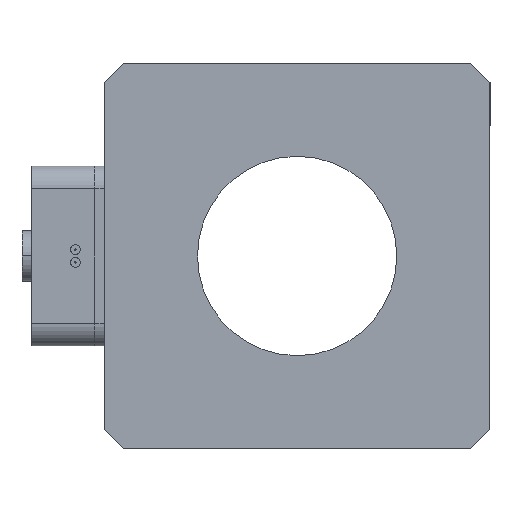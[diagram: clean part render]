
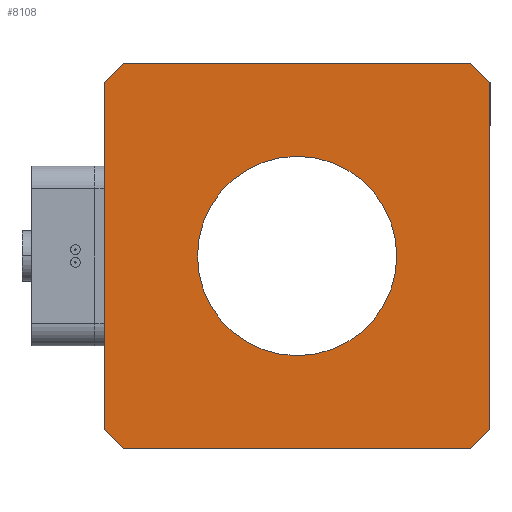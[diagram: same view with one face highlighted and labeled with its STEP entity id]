
A CAD part, left-side view. The second image highlights one B-rep face of the part: STEP entity #8108.
In plain terms, the highlighted planar face has unit normal (-1, 0, 0).
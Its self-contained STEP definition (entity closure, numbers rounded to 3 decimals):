
#316 = LINE ( 'NONE', #6033, #5275 ) ;
#317 = PLANE ( 'NONE',  #9866 ) ;
#363 = DIRECTION ( 'NONE',  ( 0., 0., -1. ) ) ;
#390 = LINE ( 'NONE', #6904, #5668 ) ;
#471 = EDGE_CURVE ( 'NONE', #2806, #6105, #3713, .T. ) ;
#690 = DIRECTION ( 'NONE',  ( 0., 0., -1. ) ) ;
#746 = ORIENTED_EDGE ( 'NONE', *, *, #471, .T. ) ;
#960 = DIRECTION ( 'NONE',  ( 0., 1., 0. ) ) ;
#963 = FACE_OUTER_BOUND ( 'NONE', #3887, .T. ) ;
#986 = EDGE_CURVE ( 'NONE', #1195, #9212, #4667, .T. ) ;
#1195 = VERTEX_POINT ( 'NONE', #9290 ) ;
#1214 = CARTESIAN_POINT ( 'NONE',  ( -36., -27., -30. ) ) ;
#1322 = CARTESIAN_POINT ( 'NONE',  ( -36., 0., 0. ) ) ;
#1701 = CARTESIAN_POINT ( 'NONE',  ( -36., 30., 30. ) ) ;
#1963 = VECTOR ( 'NONE', #690, 1000. ) ;
#2288 = DIRECTION ( 'NONE',  ( 0., 0., -1. ) ) ;
#2595 = AXIS2_PLACEMENT_3D ( 'NONE', #2926, #9838, #3922 ) ;
#2629 = EDGE_CURVE ( 'NONE', #11698, #10291, #7469, .T. ) ;
#2692 = DIRECTION ( 'NONE',  ( 0., 0., 1. ) ) ;
#2806 = VERTEX_POINT ( 'NONE', #4511 ) ;
#2926 = CARTESIAN_POINT ( 'NONE',  ( -36., 0., 0. ) ) ;
#3187 = ORIENTED_EDGE ( 'NONE', *, *, #11498, .T. ) ;
#3457 = EDGE_CURVE ( 'NONE', #11698, #3660, #4390, .T. ) ;
#3559 = FACE_BOUND ( 'NONE', #8608, .T. ) ;
#3646 = VERTEX_POINT ( 'NONE', #5457 ) ;
#3660 = VERTEX_POINT ( 'NONE', #9396 ) ;
#3713 = LINE ( 'NONE', #11019, #11283 ) ;
#3887 = EDGE_LOOP ( 'NONE', ( #11527, #746, #11809, #3187, #8839, #12751, #8802, #8007 ) ) ;
#3922 = DIRECTION ( 'NONE',  ( 0., 0., -1. ) ) ;
#4077 = VECTOR ( 'NONE', #11907, 1000. ) ;
#4124 = CARTESIAN_POINT ( 'NONE',  ( -36., 0., 15.5 ) ) ;
#4387 = VECTOR ( 'NONE', #2692, 1000. ) ;
#4390 = LINE ( 'NONE', #9979, #4077 ) ;
#4469 = CARTESIAN_POINT ( 'NONE',  ( -36., -30., -27. ) ) ;
#4511 = CARTESIAN_POINT ( 'NONE',  ( -36., 30., -27. ) ) ;
#4667 = CIRCLE ( 'NONE', #2595, 15.5 ) ;
#5137 = AXIS2_PLACEMENT_3D ( 'NONE', #1322, #8211, #2288 ) ;
#5207 = DIRECTION ( 'NONE',  ( 0., 0.707, 0.707 ) ) ;
#5275 = VECTOR ( 'NONE', #8274, 1000. ) ;
#5406 = DIRECTION ( 'NONE',  ( 0., 0.707, -0.707 ) ) ;
#5457 = CARTESIAN_POINT ( 'NONE',  ( -36., -30., 27. ) ) ;
#5668 = VECTOR ( 'NONE', #960, 1000. ) ;
#6033 = CARTESIAN_POINT ( 'NONE',  ( -36., -30., -27. ) ) ;
#6105 = VERTEX_POINT ( 'NONE', #12155 ) ;
#6146 = DIRECTION ( 'NONE',  ( 0., -0.707, -0.707 ) ) ;
#6290 = DIRECTION ( 'NONE',  ( 1., 0., 0. ) ) ;
#6904 = CARTESIAN_POINT ( 'NONE',  ( -36., 30., -30. ) ) ;
#7220 = LINE ( 'NONE', #12486, #1963 ) ;
#7469 = LINE ( 'NONE', #11300, #12702 ) ;
#7646 = LINE ( 'NONE', #1701, #4387 ) ;
#7697 = ORIENTED_EDGE ( 'NONE', *, *, #12441, .T. ) ;
#8007 = ORIENTED_EDGE ( 'NONE', *, *, #2629, .T. ) ;
#8108 = ADVANCED_FACE ( 'NONE', ( #3559, #963 ), #317, .F. ) ;
#8211 = DIRECTION ( 'NONE',  ( 1., 0., 0. ) ) ;
#8274 = DIRECTION ( 'NONE',  ( 0., -0.707, 0.707 ) ) ;
#8608 = EDGE_LOOP ( 'NONE', ( #7697, #10003 ) ) ;
#8802 = ORIENTED_EDGE ( 'NONE', *, *, #3457, .F. ) ;
#8832 = CARTESIAN_POINT ( 'NONE',  ( -36., 30., 27. ) ) ;
#8839 = ORIENTED_EDGE ( 'NONE', *, *, #9328, .F. ) ;
#9212 = VERTEX_POINT ( 'NONE', #4124 ) ;
#9290 = CARTESIAN_POINT ( 'NONE',  ( -36., 0., -15.5 ) ) ;
#9328 = EDGE_CURVE ( 'NONE', #3646, #9439, #7220, .T. ) ;
#9396 = CARTESIAN_POINT ( 'NONE',  ( -36., -27., 30. ) ) ;
#9439 = VERTEX_POINT ( 'NONE', #4469 ) ;
#9748 = EDGE_CURVE ( 'NONE', #12103, #6105, #390, .T. ) ;
#9838 = DIRECTION ( 'NONE',  ( 1., 0., 0. ) ) ;
#9866 = AXIS2_PLACEMENT_3D ( 'NONE', #12159, #6290, #363 ) ;
#9979 = CARTESIAN_POINT ( 'NONE',  ( -36., 30., 30. ) ) ;
#10003 = ORIENTED_EDGE ( 'NONE', *, *, #986, .T. ) ;
#10291 = VERTEX_POINT ( 'NONE', #8832 ) ;
#10399 = EDGE_CURVE ( 'NONE', #3646, #3660, #11524, .T. ) ;
#10418 = CARTESIAN_POINT ( 'NONE',  ( -36., 27., 30. ) ) ;
#10724 = EDGE_CURVE ( 'NONE', #2806, #10291, #7646, .T. ) ;
#11019 = CARTESIAN_POINT ( 'NONE',  ( -36., 27., -30. ) ) ;
#11214 = VECTOR ( 'NONE', #5207, 1000. ) ;
#11283 = VECTOR ( 'NONE', #6146, 1000. ) ;
#11300 = CARTESIAN_POINT ( 'NONE',  ( -36., 30., 27. ) ) ;
#11498 = EDGE_CURVE ( 'NONE', #12103, #9439, #316, .T. ) ;
#11524 = LINE ( 'NONE', #12073, #11214 ) ;
#11527 = ORIENTED_EDGE ( 'NONE', *, *, #10724, .F. ) ;
#11698 = VERTEX_POINT ( 'NONE', #10418 ) ;
#11809 = ORIENTED_EDGE ( 'NONE', *, *, #9748, .F. ) ;
#11907 = DIRECTION ( 'NONE',  ( 0., -1., 0. ) ) ;
#12073 = CARTESIAN_POINT ( 'NONE',  ( -36., -27., 30. ) ) ;
#12103 = VERTEX_POINT ( 'NONE', #1214 ) ;
#12120 = CIRCLE ( 'NONE', #5137, 15.5 ) ;
#12155 = CARTESIAN_POINT ( 'NONE',  ( -36., 27., -30. ) ) ;
#12159 = CARTESIAN_POINT ( 'NONE',  ( -36., 0., 0. ) ) ;
#12441 = EDGE_CURVE ( 'NONE', #9212, #1195, #12120, .T. ) ;
#12486 = CARTESIAN_POINT ( 'NONE',  ( -36., -30., 30. ) ) ;
#12702 = VECTOR ( 'NONE', #5406, 1000. ) ;
#12751 = ORIENTED_EDGE ( 'NONE', *, *, #10399, .T. ) ;
